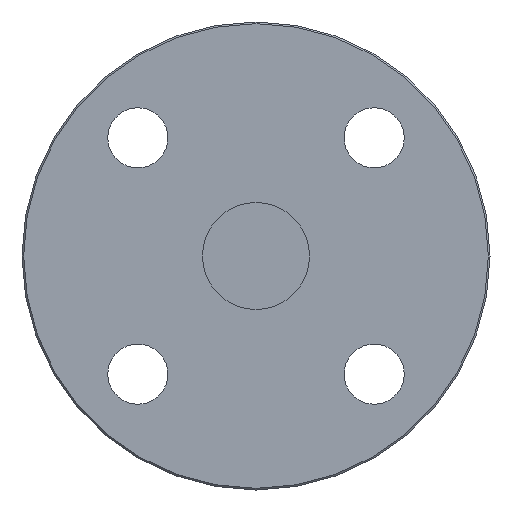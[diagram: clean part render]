
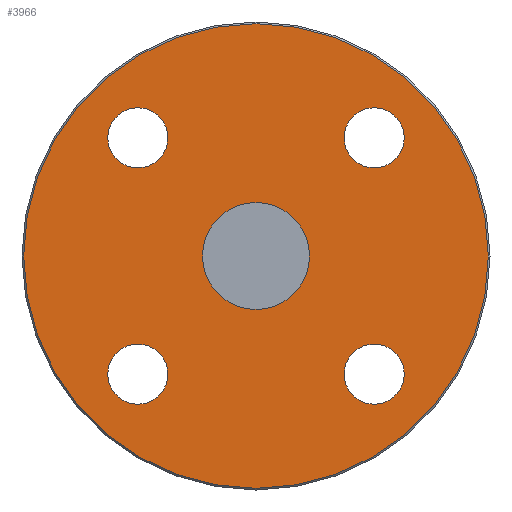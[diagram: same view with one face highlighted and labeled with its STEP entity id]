
A CAD part, left-side view. The second image highlights one B-rep face of the part: STEP entity #3966.
In plain terms, the highlighted planar face has unit normal (-1, 0, 0).
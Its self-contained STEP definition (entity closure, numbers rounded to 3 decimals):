
#167=FACE_BOUND('',#804,.T.);
#168=FACE_BOUND('',#805,.T.);
#169=FACE_BOUND('',#806,.T.);
#170=FACE_BOUND('',#807,.T.);
#171=FACE_BOUND('',#808,.T.);
#280=PLANE('',#4237);
#557=FACE_OUTER_BOUND('',#803,.T.);
#803=EDGE_LOOP('',(#3647));
#804=EDGE_LOOP('',(#3648));
#805=EDGE_LOOP('',(#3649,#3650));
#806=EDGE_LOOP('',(#3651,#3652));
#807=EDGE_LOOP('',(#3653,#3654));
#808=EDGE_LOOP('',(#3655,#3656));
#1624=CIRCLE('',#4236,69.5);
#1625=CIRCLE('',#4238,16.);
#1626=CIRCLE('',#4239,9.);
#1627=CIRCLE('',#4240,9.);
#1628=CIRCLE('',#4241,9.);
#1629=CIRCLE('',#4242,9.);
#1630=CIRCLE('',#4243,9.);
#1631=CIRCLE('',#4244,9.);
#1632=CIRCLE('',#4245,9.);
#1633=CIRCLE('',#4246,9.);
#1999=VERTEX_POINT('',#7224);
#2000=VERTEX_POINT('',#7228);
#2001=VERTEX_POINT('',#7230);
#2002=VERTEX_POINT('',#7231);
#2003=VERTEX_POINT('',#7234);
#2004=VERTEX_POINT('',#7235);
#2005=VERTEX_POINT('',#7238);
#2006=VERTEX_POINT('',#7239);
#2007=VERTEX_POINT('',#7242);
#2008=VERTEX_POINT('',#7243);
#2555=EDGE_CURVE('',#1999,#1999,#1624,.T.);
#2556=EDGE_CURVE('',#2000,#2000,#1625,.T.);
#2557=EDGE_CURVE('',#2001,#2002,#1626,.T.);
#2558=EDGE_CURVE('',#2002,#2001,#1627,.T.);
#2559=EDGE_CURVE('',#2003,#2004,#1628,.T.);
#2560=EDGE_CURVE('',#2004,#2003,#1629,.T.);
#2561=EDGE_CURVE('',#2005,#2006,#1630,.T.);
#2562=EDGE_CURVE('',#2006,#2005,#1631,.T.);
#2563=EDGE_CURVE('',#2007,#2008,#1632,.T.);
#2564=EDGE_CURVE('',#2008,#2007,#1633,.T.);
#3647=ORIENTED_EDGE('',*,*,#2555,.F.);
#3648=ORIENTED_EDGE('',*,*,#2556,.T.);
#3649=ORIENTED_EDGE('',*,*,#2557,.T.);
#3650=ORIENTED_EDGE('',*,*,#2558,.T.);
#3651=ORIENTED_EDGE('',*,*,#2559,.T.);
#3652=ORIENTED_EDGE('',*,*,#2560,.T.);
#3653=ORIENTED_EDGE('',*,*,#2561,.T.);
#3654=ORIENTED_EDGE('',*,*,#2562,.T.);
#3655=ORIENTED_EDGE('',*,*,#2563,.T.);
#3656=ORIENTED_EDGE('',*,*,#2564,.T.);
#3966=ADVANCED_FACE('',(#557,#167,#168,#169,#170,#171),#280,.T.);
#4236=AXIS2_PLACEMENT_3D('',#7226,#5087,#5088);
#4237=AXIS2_PLACEMENT_3D('',#7227,#5089,#5090);
#4238=AXIS2_PLACEMENT_3D('',#7229,#5091,#5092);
#4239=AXIS2_PLACEMENT_3D('',#7232,#5093,#5094);
#4240=AXIS2_PLACEMENT_3D('',#7233,#5095,#5096);
#4241=AXIS2_PLACEMENT_3D('',#7236,#5097,#5098);
#4242=AXIS2_PLACEMENT_3D('',#7237,#5099,#5100);
#4243=AXIS2_PLACEMENT_3D('',#7240,#5101,#5102);
#4244=AXIS2_PLACEMENT_3D('',#7241,#5103,#5104);
#4245=AXIS2_PLACEMENT_3D('',#7244,#5105,#5106);
#4246=AXIS2_PLACEMENT_3D('',#7245,#5107,#5108);
#5087=DIRECTION('center_axis',(1.,0.,0.));
#5088=DIRECTION('ref_axis',(0.,-1.,0.));
#5089=DIRECTION('center_axis',(-1.,0.,0.));
#5090=DIRECTION('ref_axis',(0.,0.,1.));
#5091=DIRECTION('center_axis',(1.,0.,0.));
#5092=DIRECTION('ref_axis',(0.,0.,-1.));
#5093=DIRECTION('center_axis',(1.,0.,0.));
#5094=DIRECTION('ref_axis',(0.,0.,1.));
#5095=DIRECTION('center_axis',(1.,0.,0.));
#5096=DIRECTION('ref_axis',(0.,0.,1.));
#5097=DIRECTION('center_axis',(1.,0.,0.));
#5098=DIRECTION('ref_axis',(0.,0.,1.));
#5099=DIRECTION('center_axis',(1.,0.,0.));
#5100=DIRECTION('ref_axis',(0.,0.,1.));
#5101=DIRECTION('center_axis',(1.,0.,0.));
#5102=DIRECTION('ref_axis',(0.,0.,1.));
#5103=DIRECTION('center_axis',(1.,0.,0.));
#5104=DIRECTION('ref_axis',(0.,0.,1.));
#5105=DIRECTION('center_axis',(1.,0.,0.));
#5106=DIRECTION('ref_axis',(0.,0.,1.));
#5107=DIRECTION('center_axis',(1.,0.,0.));
#5108=DIRECTION('ref_axis',(0.,0.,1.));
#7224=CARTESIAN_POINT('',(-37.5,69.5,0.));
#7226=CARTESIAN_POINT('Origin',(-37.5,0.,0.));
#7227=CARTESIAN_POINT('Origin',(-37.5,35.,0.));
#7228=CARTESIAN_POINT('',(-37.5,0.,16.));
#7229=CARTESIAN_POINT('Origin',(-37.5,0.,0.));
#7230=CARTESIAN_POINT('',(-37.5,35.355,-26.355));
#7231=CARTESIAN_POINT('',(-37.5,35.355,-44.355));
#7232=CARTESIAN_POINT('Origin',(-37.5,35.355,-35.355));
#7233=CARTESIAN_POINT('Origin',(-37.5,35.355,-35.355));
#7234=CARTESIAN_POINT('',(-37.5,-35.355,-26.355));
#7235=CARTESIAN_POINT('',(-37.5,-35.355,-44.355));
#7236=CARTESIAN_POINT('Origin',(-37.5,-35.355,-35.355));
#7237=CARTESIAN_POINT('Origin',(-37.5,-35.355,-35.355));
#7238=CARTESIAN_POINT('',(-37.5,-35.355,44.355));
#7239=CARTESIAN_POINT('',(-37.5,-35.355,26.355));
#7240=CARTESIAN_POINT('Origin',(-37.5,-35.355,35.355));
#7241=CARTESIAN_POINT('Origin',(-37.5,-35.355,35.355));
#7242=CARTESIAN_POINT('',(-37.5,35.355,44.355));
#7243=CARTESIAN_POINT('',(-37.5,35.355,26.355));
#7244=CARTESIAN_POINT('Origin',(-37.5,35.355,35.355));
#7245=CARTESIAN_POINT('Origin',(-37.5,35.355,35.355));
